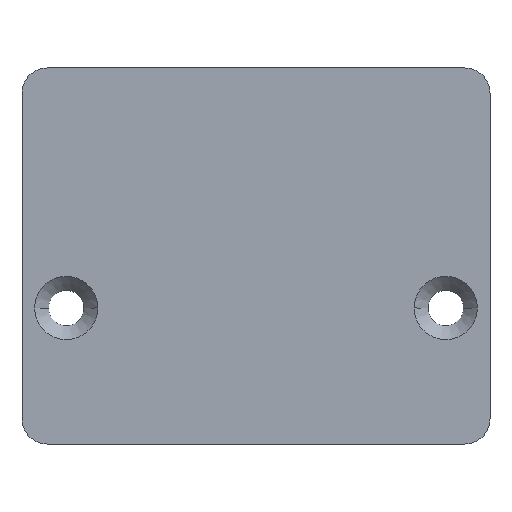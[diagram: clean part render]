
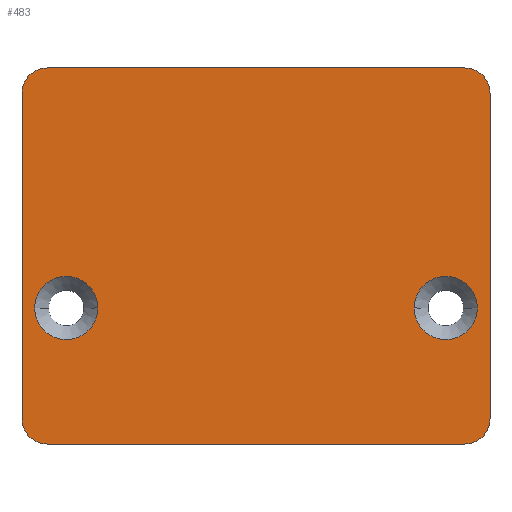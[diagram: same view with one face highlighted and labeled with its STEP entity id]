
A CAD part, top view. The second image highlights one B-rep face of the part: STEP entity #483.
In plain terms, the highlighted planar face has unit normal (0, 0, 1).
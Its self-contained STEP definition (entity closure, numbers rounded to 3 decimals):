
#3 = CIRCLE ( 'NONE', #200, 2. ) ;
#4 = AXIS2_PLACEMENT_3D ( 'NONE', #129, #258, #170 ) ;
#14 = CIRCLE ( 'NONE', #390, 2. ) ;
#27 = ORIENTED_EDGE ( 'NONE', *, *, #225, .F. ) ;
#30 = DIRECTION ( 'NONE',  ( 1., 0., 0. ) ) ;
#44 = VERTEX_POINT ( 'NONE', #81 ) ;
#57 = AXIS2_PLACEMENT_3D ( 'NONE', #484, #294, #567 ) ;
#60 = CARTESIAN_POINT ( 'NONE',  ( -18.5, 18.98, 2.5 ) ) ;
#62 = DIRECTION ( 'NONE',  ( 0., -1., 0. ) ) ;
#66 = AXIS2_PLACEMENT_3D ( 'NONE', #522, #205, #120 ) ;
#72 = ORIENTED_EDGE ( 'NONE', *, *, #543, .F. ) ;
#75 = CARTESIAN_POINT ( 'NONE',  ( -16.5, -10.754, 2.5 ) ) ;
#80 = DIRECTION ( 'NONE',  ( 0., -1., 0. ) ) ;
#81 = CARTESIAN_POINT ( 'NONE',  ( 12.5, 0., 2.5 ) ) ;
#85 = DIRECTION ( 'NONE',  ( 0., 0., 1. ) ) ;
#88 = VERTEX_POINT ( 'NONE', #242 ) ;
#92 = VECTOR ( 'NONE', #30, 1000. ) ;
#106 = VERTEX_POINT ( 'NONE', #75 ) ;
#107 = EDGE_CURVE ( 'NONE', #558, #106, #3, .T. ) ;
#111 = DIRECTION ( 'NONE',  ( 1., 0., 0. ) ) ;
#118 = DIRECTION ( 'NONE',  ( 1., 0., 0. ) ) ;
#120 = DIRECTION ( 'NONE',  ( -1., 0., 0. ) ) ;
#127 = DIRECTION ( 'NONE',  ( 0., 0., 1. ) ) ;
#129 = CARTESIAN_POINT ( 'NONE',  ( 15., 0., 2.5 ) ) ;
#142 = ORIENTED_EDGE ( 'NONE', *, *, #308, .F. ) ;
#146 = CARTESIAN_POINT ( 'NONE',  ( -16.5, 18.98, 2.5 ) ) ;
#148 = AXIS2_PLACEMENT_3D ( 'NONE', #326, #514, #111 ) ;
#158 = FACE_BOUND ( 'NONE', #270, .T. ) ;
#162 = CARTESIAN_POINT ( 'NONE',  ( 18.5, 18.98, 2.5 ) ) ;
#170 = DIRECTION ( 'NONE',  ( 1., 0., 0. ) ) ;
#172 = EDGE_CURVE ( 'NONE', #217, #88, #583, .T. ) ;
#176 = CIRCLE ( 'NONE', #148, 2.5 ) ;
#178 = ORIENTED_EDGE ( 'NONE', *, *, #511, .F. ) ;
#179 = CARTESIAN_POINT ( 'NONE',  ( 16.5, 16.98, 2.5 ) ) ;
#186 = CARTESIAN_POINT ( 'NONE',  ( 16.5, -8.754, 2.5 ) ) ;
#187 = ORIENTED_EDGE ( 'NONE', *, *, #462, .F. ) ;
#189 = ORIENTED_EDGE ( 'NONE', *, *, #399, .F. ) ;
#192 = DIRECTION ( 'NONE',  ( 1., 0., 0. ) ) ;
#200 = AXIS2_PLACEMENT_3D ( 'NONE', #212, #127, #249 ) ;
#201 = FACE_OUTER_BOUND ( 'NONE', #425, .T. ) ;
#204 = VERTEX_POINT ( 'NONE', #264 ) ;
#205 = DIRECTION ( 'NONE',  ( 0., 0., -1. ) ) ;
#212 = CARTESIAN_POINT ( 'NONE',  ( -16.5, -8.754, 2.5 ) ) ;
#213 = CIRCLE ( 'NONE', #283, 2.5 ) ;
#217 = VERTEX_POINT ( 'NONE', #577 ) ;
#218 = CARTESIAN_POINT ( 'NONE',  ( -18.5, -8.754, 2.5 ) ) ;
#225 = EDGE_CURVE ( 'NONE', #44, #204, #255, .T. ) ;
#235 = ORIENTED_EDGE ( 'NONE', *, *, #505, .T. ) ;
#237 = VERTEX_POINT ( 'NONE', #459 ) ;
#242 = CARTESIAN_POINT ( 'NONE',  ( 16.5, 18.98, 2.5 ) ) ;
#243 = CARTESIAN_POINT ( 'NONE',  ( 18.5, -8.754, 2.5 ) ) ;
#246 = CARTESIAN_POINT ( 'NONE',  ( -18.5, 18.98, 2.5 ) ) ;
#249 = DIRECTION ( 'NONE',  ( -1., 0., 0. ) ) ;
#255 = CIRCLE ( 'NONE', #4, 2.5 ) ;
#258 = DIRECTION ( 'NONE',  ( 0., 0., 1. ) ) ;
#262 = VERTEX_POINT ( 'NONE', #352 ) ;
#264 = CARTESIAN_POINT ( 'NONE',  ( 17.5, 0., 2.5 ) ) ;
#270 = EDGE_LOOP ( 'NONE', ( #189, #27 ) ) ;
#278 = EDGE_LOOP ( 'NONE', ( #178, #142 ) ) ;
#281 = CARTESIAN_POINT ( 'NONE',  ( 16.5, -10.754, 2.5 ) ) ;
#282 = VERTEX_POINT ( 'NONE', #369 ) ;
#283 = AXIS2_PLACEMENT_3D ( 'NONE', #480, #434, #118 ) ;
#294 = DIRECTION ( 'NONE',  ( 0., 0., 1. ) ) ;
#307 = VERTEX_POINT ( 'NONE', #281 ) ;
#308 = EDGE_CURVE ( 'NONE', #262, #237, #373, .T. ) ;
#311 = VERTEX_POINT ( 'NONE', #146 ) ;
#323 = VECTOR ( 'NONE', #80, 1000. ) ;
#326 = CARTESIAN_POINT ( 'NONE',  ( 15., 0., 2.5 ) ) ;
#346 = CARTESIAN_POINT ( 'NONE',  ( -18.5, -10.754, 2.5 ) ) ;
#352 = CARTESIAN_POINT ( 'NONE',  ( -17.5, 0., 2.5 ) ) ;
#354 = EDGE_CURVE ( 'NONE', #282, #558, #467, .T. ) ;
#355 = VECTOR ( 'NONE', #531, 1000. ) ;
#360 = ORIENTED_EDGE ( 'NONE', *, *, #354, .T. ) ;
#365 = DIRECTION ( 'NONE',  ( 0., 0., 1. ) ) ;
#369 = CARTESIAN_POINT ( 'NONE',  ( -18.5, 16.98, 2.5 ) ) ;
#373 = CIRCLE ( 'NONE', #456, 2.5 ) ;
#384 = FACE_BOUND ( 'NONE', #278, .T. ) ;
#390 = AXIS2_PLACEMENT_3D ( 'NONE', #186, #365, #548 ) ;
#394 = LINE ( 'NONE', #346, #355 ) ;
#399 = EDGE_CURVE ( 'NONE', #204, #44, #176, .T. ) ;
#419 = CARTESIAN_POINT ( 'NONE',  ( -15., 0., 2.5 ) ) ;
#425 = EDGE_LOOP ( 'NONE', ( #72, #504, #187, #235, #360, #552, #515, #473 ) ) ;
#434 = DIRECTION ( 'NONE',  ( 0., 0., 1. ) ) ;
#440 = EDGE_CURVE ( 'NONE', #307, #479, #14, .T. ) ;
#441 = AXIS2_PLACEMENT_3D ( 'NONE', #179, #85, #443 ) ;
#443 = DIRECTION ( 'NONE',  ( -1., 0., 0. ) ) ;
#456 = AXIS2_PLACEMENT_3D ( 'NONE', #419, #472, #192 ) ;
#459 = CARTESIAN_POINT ( 'NONE',  ( -12.5, 0., 2.5 ) ) ;
#462 = EDGE_CURVE ( 'NONE', #311, #88, #561, .T. ) ;
#467 = LINE ( 'NONE', #60, #489 ) ;
#472 = DIRECTION ( 'NONE',  ( 0., 0., 1. ) ) ;
#473 = ORIENTED_EDGE ( 'NONE', *, *, #440, .T. ) ;
#475 = CIRCLE ( 'NONE', #57, 2. ) ;
#479 = VERTEX_POINT ( 'NONE', #243 ) ;
#480 = CARTESIAN_POINT ( 'NONE',  ( -15., 0., 2.5 ) ) ;
#483 = ADVANCED_FACE ( 'NONE', ( #384, #158, #201 ), #529, .F. ) ;
#484 = CARTESIAN_POINT ( 'NONE',  ( -16.5, 16.98, 2.5 ) ) ;
#489 = VECTOR ( 'NONE', #62, 1000. ) ;
#504 = ORIENTED_EDGE ( 'NONE', *, *, #172, .T. ) ;
#505 = EDGE_CURVE ( 'NONE', #311, #282, #475, .T. ) ;
#511 = EDGE_CURVE ( 'NONE', #237, #262, #213, .T. ) ;
#514 = DIRECTION ( 'NONE',  ( 0., 0., 1. ) ) ;
#515 = ORIENTED_EDGE ( 'NONE', *, *, #589, .T. ) ;
#522 = CARTESIAN_POINT ( 'NONE',  ( 0., 0., 2.5 ) ) ;
#529 = PLANE ( 'NONE',  #66 ) ;
#531 = DIRECTION ( 'NONE',  ( 1., 0., 0. ) ) ;
#543 = EDGE_CURVE ( 'NONE', #217, #479, #570, .T. ) ;
#548 = DIRECTION ( 'NONE',  ( -1., 0., 0. ) ) ;
#552 = ORIENTED_EDGE ( 'NONE', *, *, #107, .T. ) ;
#558 = VERTEX_POINT ( 'NONE', #218 ) ;
#561 = LINE ( 'NONE', #246, #92 ) ;
#567 = DIRECTION ( 'NONE',  ( -1., 0., 0. ) ) ;
#570 = LINE ( 'NONE', #162, #323 ) ;
#577 = CARTESIAN_POINT ( 'NONE',  ( 18.5, 16.98, 2.5 ) ) ;
#583 = CIRCLE ( 'NONE', #441, 2. ) ;
#589 = EDGE_CURVE ( 'NONE', #106, #307, #394, .T. ) ;
